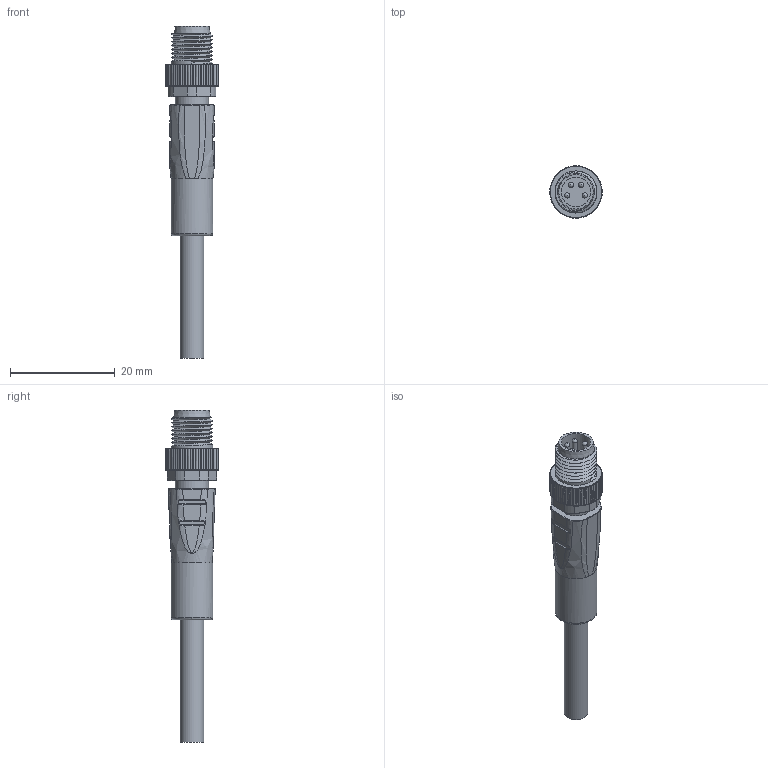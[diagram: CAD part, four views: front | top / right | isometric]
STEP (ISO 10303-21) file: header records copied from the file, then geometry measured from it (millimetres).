
FILE_DESCRIPTION(/* description */ (''),/* implementation_level */ '2;1');
FILE_NAME(/* name */ 'M8-4MS-L.stp',/* time_stamp */ '2023-11-27T19:35:46+08:00',/* author */ (''),/* organization */ (''),/* preprocessor_version */ 'ST-DEVELOPER v16.7',/* originating_system */ 'SIEMENS PLM Software NX 12.0',/* authorisation */ '');
FILE_SCHEMA (('AP203_CONFIGURATION_CONTROLLED_3D_DESIGN_OF_MECHANICAL_PARTS_AND_ASSEMBLIES_MIM_LF { 1 0 10303 403 2 1 2}'));
Length unit declared in the file: millimetre
Products named in the file (1): Admi21B8053Bs0ke
Bounding box: 10 x 10 x 63.3 mm (x, y, z)
Volume: 2422.1 mm3; surface area: 2383.9 mm2
Topology: 1 solids, 1 shells, 428 faces, 967 edges, 558 vertices
Faces by surface type: cylinder 149, cone 128, plane 101, extrusion 22, bspline 19, torus 5, sphere 4
Full cylindrical faces by diameter (mm): 1 x4, 4.5 x1, 5.6 x1, 6.3 x1, 6.5 x1, 8 x1
Entity records: 17407 total; most frequent: CARTESIAN_POINT 8316, ORIENTED_EDGE 1870, DIRECTION 1823, EDGE_CURVE 935, AXIS2_PLACEMENT_3D 721, VERTEX_POINT 542, EDGE_LOOP 461, ADVANCED_FACE 428
